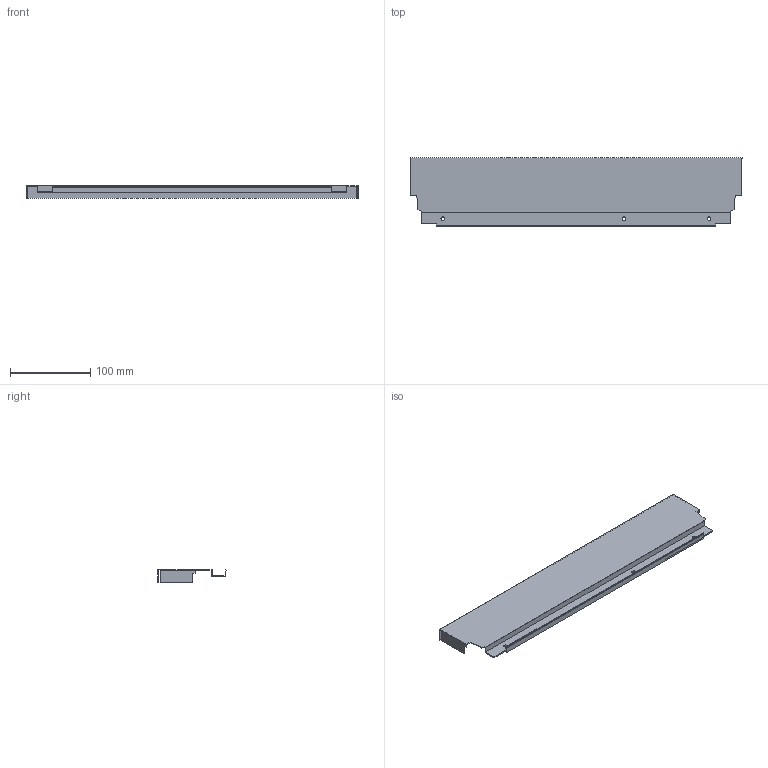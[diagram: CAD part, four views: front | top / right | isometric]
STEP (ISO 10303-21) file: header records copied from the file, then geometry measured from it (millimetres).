
FILE_DESCRIPTION (( 'STEP AP214' ), '1' );
FILE_NAME ('_DWD_XP Stahlrückwand_H86_KAB500_S18.step', '2010-07-08T12:10:19', ( 'grass' ), ( '' ), 'SwSTEP 2.0', 'SolidWorks 2010', '' );
FILE_SCHEMA (( 'AUTOMOTIVE_DESIGN' ));
Length unit declared in the file: millimetre
Products named in the file (1): _DWD_XP Stahlrückwand_H86_KAB500_S18
Bounding box: 415 x 85.79 x 16 mm (x, y, z)
Volume: 43964.4 mm3; surface area: 96137.5 mm2
Topology: 1 solids, 1 shells, 50 faces, 144 edges, 96 vertices
Faces by surface type: plane 44, cylinder 6
Entity records: 1666 total; most frequent: CARTESIAN_POINT 291, ORIENTED_EDGE 288, DIRECTION 258, EDGE_CURVE 144, LINE 132, VECTOR 132, VERTEX_POINT 96, AXIS2_PLACEMENT_3D 63
